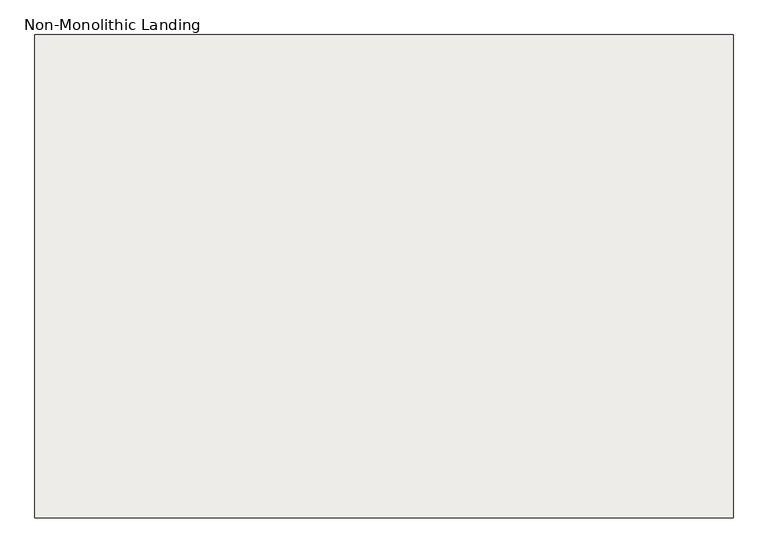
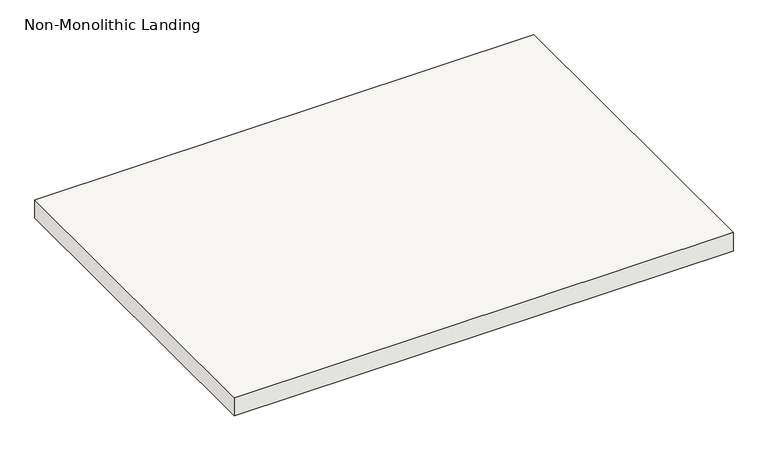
"""IFC4 building model written with IfcOpenShell, lengths in millimetres: slab geometry, Non-Monolithic Landing."""

from ifc_helpers import new_model, si_unit, frame, origin, place, context, project, spatial, polyline, outline, extrude, source, transform, mapped, element, save


def non_monolithic_landing_9c3b6c2f(model_context):
    return source(origin(), model_context, "Body", "SweptSolid", [
        extrude(outline(polyline([(88025.1145262, 34921.4395941), (89345.9145262, 34921.4395941), (89345.9145262, 34007.0395941), (88025.1145262, 34007.0395941), (88025.1145262, 34921.4395941)])), frame((0.0, 0.0, 2126.3428571), z_axis=(0.0, 0.0, 1.0), x_axis=(1.0, 0.0, 0.0)), (0.0, 0.0, 1.0), 50.8),
    ])


if __name__ == "__main__":
    model = new_model("IFC4")
    model_context = context("Model", 3, world=origin())
    ifc_project = project(units=[si_unit("LENGTHUNIT", "METRE", prefix="MILLI")], contexts=[model_context])
    site = spatial("IfcSite", under=ifc_project)
    building = spatial("IfcBuilding", under=site)
    placement = place(None, origin())
    non_monolithic_landing_shape = non_monolithic_landing_9c3b6c2f(model_context)
    element("IfcSlab", 1, ObjectType="Non-Monolithic Landing", at=placement, inside=building, context=model_context, shape_type="MappedRepresentation", body=[
        mapped(non_monolithic_landing_shape, transform((0.0, 0.0, 0.0), x_axis=(1.0, 0.0, 0.0), y_axis=(0.0, 1.0, 0.0), z_axis=(0.0, 0.0, 1.0))),
    ])
    save(model, "model.ifc")
